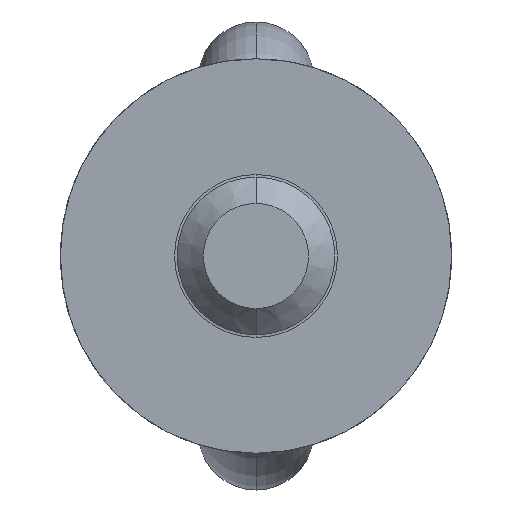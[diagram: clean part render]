
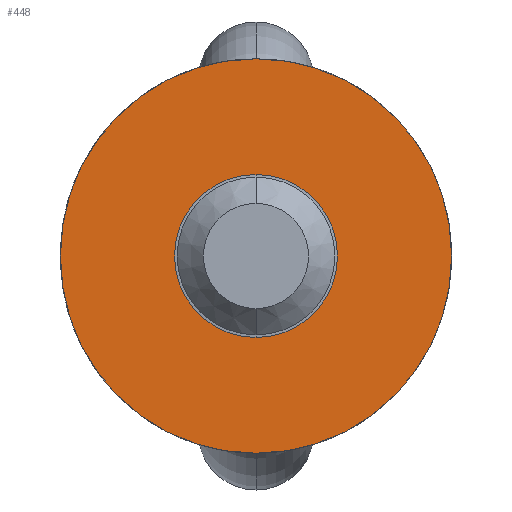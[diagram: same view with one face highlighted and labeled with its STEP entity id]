
A CAD part, front view. The second image highlights one B-rep face of the part: STEP entity #448.
In plain terms, the highlighted planar face has unit normal (0, -1, 0).
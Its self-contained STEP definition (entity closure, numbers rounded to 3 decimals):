
#448=ADVANCED_FACE('',(#1084,#1085),#1086,.F.);
#1084=FACE_OUTER_BOUND('',#4139,.T.);
#1085=FACE_BOUND('',#4140,.T.);
#1086=PLANE('',#4141);
#4139=EDGE_LOOP('',(#8471,#8472,#8473,#8474));
#4140=EDGE_LOOP('',(#8475,#8476));
#4141=AXIS2_PLACEMENT_3D('',#8477,#8478,#8479);
#8471=ORIENTED_EDGE('',*,*,#10281,.F.);
#8472=ORIENTED_EDGE('',*,*,#10231,.T.);
#8473=ORIENTED_EDGE('',*,*,#10262,.T.);
#8474=ORIENTED_EDGE('',*,*,#10220,.F.);
#8475=ORIENTED_EDGE('',*,*,#10209,.T.);
#8476=ORIENTED_EDGE('',*,*,#10447,.T.);
#8477=CARTESIAN_POINT('',(0.0,-66.8,0.0));
#8478=DIRECTION('',(0.0,1.0,0.0));
#8479=DIRECTION('',(1.0,0.0,-0.0));
#10209=EDGE_CURVE('',#11244,#11248,#11250,.T.);
#10220=EDGE_CURVE('',#11264,#11267,#11268,.T.);
#10231=EDGE_CURVE('',#11288,#11285,#11289,.T.);
#10262=EDGE_CURVE('',#11285,#11267,#11337,.T.);
#10281=EDGE_CURVE('',#11288,#11264,#11366,.T.);
#10447=EDGE_CURVE('',#11248,#11244,#11598,.T.);
#11244=VERTEX_POINT('',#12769);
#11248=VERTEX_POINT('',#12773);
#11250=CIRCLE('',#12775,15.5);
#11264=VERTEX_POINT('',#12793);
#11267=VERTEX_POINT('',#12797);
#11268=CIRCLE('',#12798,37.182);
#11285=VERTEX_POINT('',#12927);
#11288=VERTEX_POINT('',#12931);
#11289=CIRCLE('',#12932,37.182);
#11337=CIRCLE('',#13210,37.182);
#11366=CIRCLE('',#13382,37.182);
#11598=CIRCLE('',#14760,15.5);
#12769=CARTESIAN_POINT('',(0.0,-66.8,15.5));
#12773=CARTESIAN_POINT('',(0.,-66.8,-15.5));
#12775=AXIS2_PLACEMENT_3D('',#21030,#21031,#21032);
#12793=CARTESIAN_POINT('',(0.,-66.8,-37.5));
#12797=CARTESIAN_POINT('',(-37.18,-66.8,0.0));
#12798=AXIS2_PLACEMENT_3D('',#21044,#21045,#21046);
#12927=CARTESIAN_POINT('',(0.,-66.8,37.5));
#12931=CARTESIAN_POINT('',(37.18,-66.8,0.0));
#12932=AXIS2_PLACEMENT_3D('',#21049,#21050,#21051);
#13210=AXIS2_PLACEMENT_3D('',#21072,#21073,#21074);
#13382=AXIS2_PLACEMENT_3D('',#21082,#21083,#21084);
#14760=AXIS2_PLACEMENT_3D('',#21230,#21231,#21232);
#21030=CARTESIAN_POINT('',(0.0,-66.8,0.0));
#21031=DIRECTION('',(0.0,1.0,0.0));
#21032=DIRECTION('',(0.0,0.0,1.0));
#21044=CARTESIAN_POINT('',(0.,-66.8,-0.318));
#21045=DIRECTION('',(0.0,1.0,0.0));
#21046=DIRECTION('',(0.0,0.0,-1.0));
#21049=CARTESIAN_POINT('',(0.,-66.8,0.318));
#21050=DIRECTION('',(0.0,-1.0,0.0));
#21051=DIRECTION('',(0.0,0.0,1.0));
#21072=CARTESIAN_POINT('',(0.,-66.8,0.318));
#21073=DIRECTION('',(0.0,-1.0,0.0));
#21074=DIRECTION('',(0.0,0.0,1.0));
#21082=CARTESIAN_POINT('',(0.,-66.8,-0.318));
#21083=DIRECTION('',(0.0,1.0,0.0));
#21084=DIRECTION('',(0.0,0.0,-1.0));
#21230=CARTESIAN_POINT('',(0.0,-66.8,0.0));
#21231=DIRECTION('',(0.0,1.0,0.0));
#21232=DIRECTION('',(0.0,0.0,1.0));
